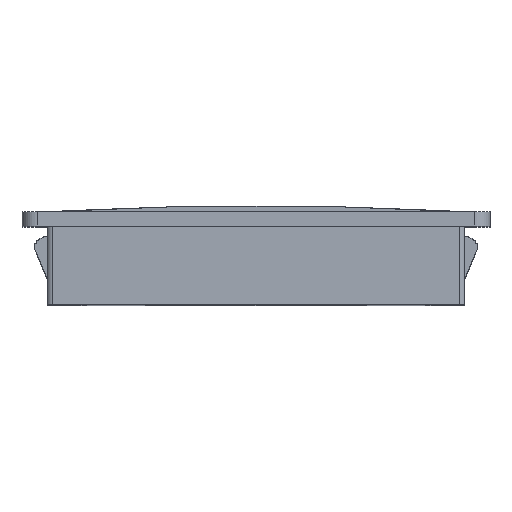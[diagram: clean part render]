
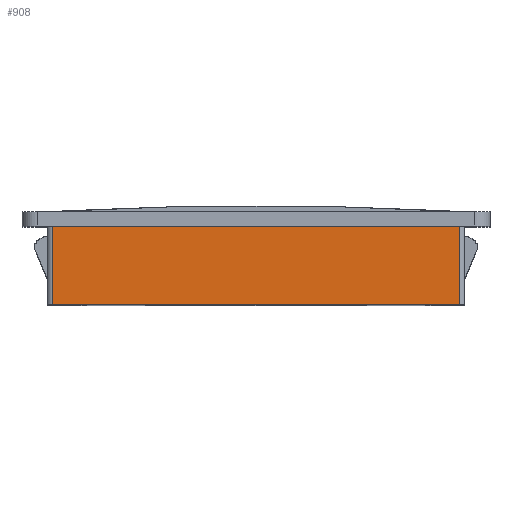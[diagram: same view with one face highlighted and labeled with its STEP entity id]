
A CAD part, top view. The second image highlights one B-rep face of the part: STEP entity #908.
In plain terms, the highlighted planar face has unit normal (0, 0, 1).
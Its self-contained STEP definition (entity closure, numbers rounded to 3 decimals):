
#908=ADVANCED_FACE('',(#2590),#2592,.T.);
#2590=FACE_BOUND('',#2591,.T.);
#2591=EDGE_LOOP('',(#4102,#4103,#4104,#4105));
#2592=PLANE('',#2593);
#2593=AXIS2_PLACEMENT_3D('',#2594,#2595,#2596);
#2594=CARTESIAN_POINT('',(38.7,0.,48.5));
#2595=DIRECTION('',(0.,0.,1.));
#2596=DIRECTION('',(-1.,0.,0.));
#4102=ORIENTED_EDGE('',*,*,#5043,.T.);
#4103=ORIENTED_EDGE('',*,*,#5097,.T.);
#4104=ORIENTED_EDGE('',*,*,#4977,.F.);
#4105=ORIENTED_EDGE('',*,*,#5096,.F.);
#4977=EDGE_CURVE('',#5839,#5841,#5842,.T.);
#5043=EDGE_CURVE('',#5958,#5956,#5959,.F.);
#5096=EDGE_CURVE('',#5958,#5839,#6047,.T.);
#5097=EDGE_CURVE('',#5956,#5841,#6048,.T.);
#5839=VERTEX_POINT('',#8266);
#5841=VERTEX_POINT('',#8271);
#5842=LINE('',#8272,#8273);
#5956=VERTEX_POINT('',#8536);
#5958=VERTEX_POINT('',#8541);
#5959=LINE('',#8542,#8543);
#6047=LINE('',#8747,#8748);
#6048=LINE('',#8750,#8751);
#8266=CARTESIAN_POINT('',(38.7,-15.,48.5));
#8271=CARTESIAN_POINT('',(-38.7,-15.,48.5));
#8272=CARTESIAN_POINT('',(38.7,-15.,48.5));
#8273=VECTOR('',#8274,1.);
#8274=DIRECTION('',(-1.,0.,0.));
#8536=CARTESIAN_POINT('',(-38.7,0.,48.5));
#8541=CARTESIAN_POINT('',(38.7,0.,48.5));
#8542=CARTESIAN_POINT('',(-38.7,0.,48.5));
#8543=VECTOR('',#8544,1.);
#8544=DIRECTION('',(1.,0.,0.));
#8747=CARTESIAN_POINT('',(38.7,0.,48.5));
#8748=VECTOR('',#8749,1.);
#8749=DIRECTION('',(0.,-1.,0.));
#8750=CARTESIAN_POINT('',(-38.7,0.,48.5));
#8751=VECTOR('',#8752,1.);
#8752=DIRECTION('',(0.,-1.,0.));
